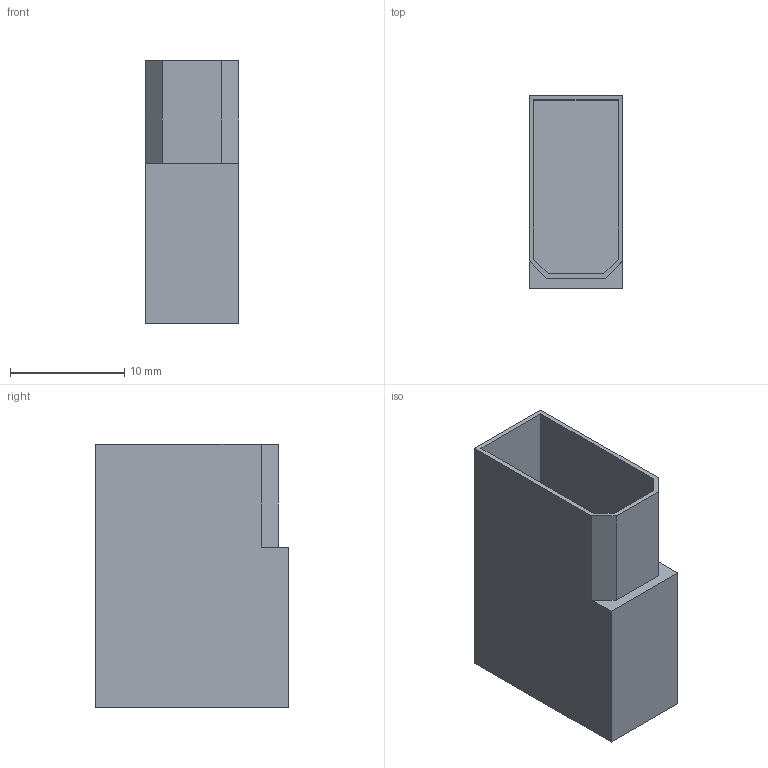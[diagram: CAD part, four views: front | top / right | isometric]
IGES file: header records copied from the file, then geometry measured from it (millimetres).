
Start section:  PTC IGES file: j4a-cn2.igs
Global section: file name: j4a-cn2.igs; native system: Pro/ENGINEER by Parametric Technology Corporation; preprocessor: 2010160; author: CV86875; organization: Unknown; date: 20121031.194045; units: millimetre
Bounding box: 8.2 x 16.9 x 23 mm (x, y, z)
Volume: 485.8 mm3; surface area: 2447.6 mm2
Topology: 1 solids, 1 shells, 19 faces, 48 edges, 32 vertices
Faces by surface type: bspline 19
